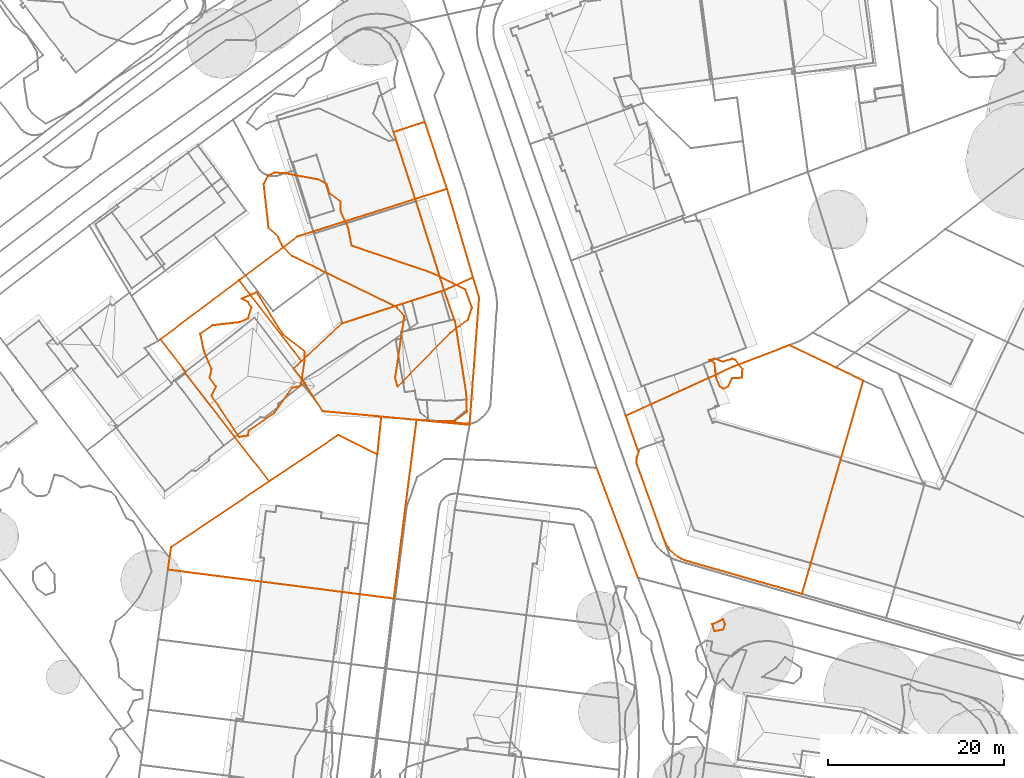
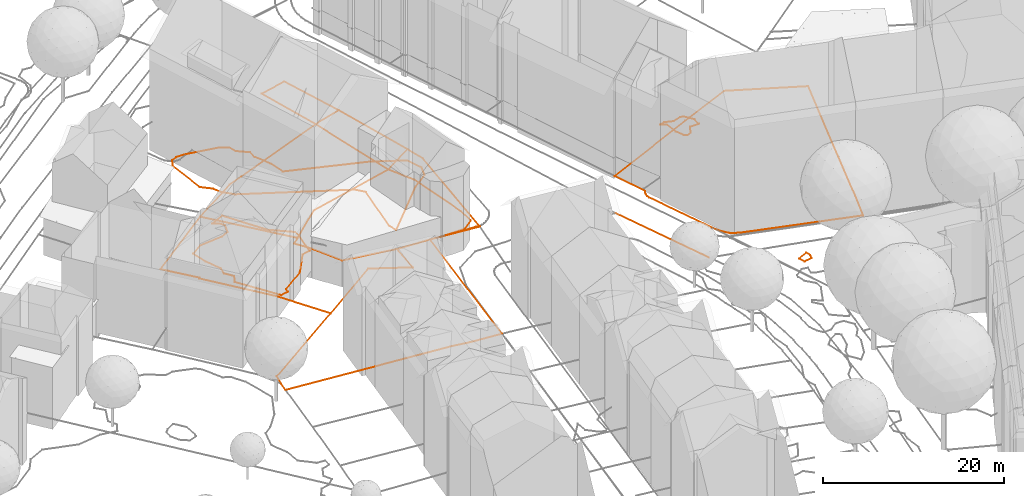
# Not in any storey, part 129 of 494: 11 proxies.
"""IFC2X3 model written with IfcOpenShell, lengths in metres."""

from ifc_helpers import new_model, entity, si_unit, frame, origin_with_axes, place, context, subcontext, project, element, save


model = new_model("IFC2X3")

# Units and contexts
model_context = context("Model", 3, precision=1e-05, world=origin_with_axes())
body_context = subcontext(model_context, "Body", "Model", "MODEL_VIEW")
ifc_project = project(units=[si_unit("AREAUNIT", "SQUARE_METRE"), si_unit("LENGTHUNIT", "METRE")], contexts=[model_context])

# Proxies
proxy_1_placement = place(None, frame((481.301732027, 114.9217396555, 501.949), z_axis=(0.0, 0.0, 1.0), x_axis=(1.0, 0.0, 0.0)))
element("IfcBuildingElementProxy", 1, at=proxy_1_placement, Name="Road 165", ObjectType="NOTDEFINED", context=body_context, shape_type="GeometricCurveSet", body=[
    entity("IfcGeometricCurveSet", [entity("IfcPolyline", [entity("IfcCartesianPoint", [4.6989999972, -12.4819996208, -0.065]), entity("IfcCartesianPoint", [0.0, 0.0, 0.0])])]),
])
proxy_2_placement = place(None, frame((458.2217320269, 153.0947160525, 502.9769572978), z_axis=(0.0, 0.0, 1.0), x_axis=(1.0, 0.0, 0.0)))
element("IfcBuildingElementProxy", 2, at=proxy_2_placement, Name="Roads Outline 79", ObjectType="NOTDEFINED", context=body_context, shape_type="GeometricCurveSet", body=[
    entity("IfcGeometricCurveSet", [entity("IfcPolyline", [entity("IfcCartesianPoint", [0.0, 0.0, 0.0]), entity("IfcCartesianPoint", [3.5499999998, 1.173, -0.3031766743]), entity("IfcCartesianPoint", [6.0699999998, -6.4540000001, -0.4345968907]), entity("IfcCartesianPoint", [9.04, -16.524, -0.6327243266]), entity("IfcCartesianPoint", [9.7199999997, -18.814, -0.7183331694]), entity("IfcCartesianPoint", [8.642, -33.1340000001, -0.7359269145]), entity("IfcCartesianPoint", [8.4389999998, -33.1390000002, -0.7298806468]), entity("IfcCartesianPoint", [8.2369999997, -33.125, -0.724778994]), entity("IfcCartesianPoint", [4.4099999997, -32.882, -0.6818248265]), entity("IfcCartesianPoint", [6.9589999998, -32.8190000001, -0.6970912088]), entity("IfcCartesianPoint", [8.3249999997, -31.7710000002, -0.7623104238]), entity("IfcCartesianPoint", [8.2560000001, -29.6770000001, -0.7232116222]), entity("IfcCartesianPoint", [6.9949999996, -21.561, -0.9467390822]), entity("IfcCartesianPoint", [5.736, -17.9740000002, -1.3251804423]), entity("IfcCartesianPoint", [2.4669999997, -7.6020000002, -0.3523463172]), entity("IfcCartesianPoint", [0.0, 0.0, 0.0])])]),
])
proxy_3_placement = place(None, frame((484.6067320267, 120.8577160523, 502.1964301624), z_axis=(0.0, 0.0, 1.0), x_axis=(1.0, 0.0, 0.0)))
element("IfcBuildingElementProxy", 3, at=proxy_3_placement, Name="Cadastre 187", ObjectType="NOTDEFINED", context=body_context, shape_type="GeometricCurveSet", body=[
    entity("IfcGeometricCurveSet", [entity("IfcPolyline", [entity("IfcCartesianPoint", [0.0, 0.0, 0.0]), entity("IfcCartesianPoint", [12.2119999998, 5.5830000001, -0.2035216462]), entity("IfcCartesianPoint", [18.571, 8.023, 0.1133607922]), entity("IfcCartesianPoint", [26.9810000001, 3.9840000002, 0.2483261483]), entity("IfcCartesianPoint", [24.4550000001, -4.791, 0.1320991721]), entity("IfcCartesianPoint", [21.0150000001, -16.74, 0.1327480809]), entity("IfcCartesianPoint", [20.0019999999, -20.257, -0.0218796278]), entity("IfcCartesianPoint", [6.6839999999, -16.4269999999, 0.0225967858]), entity("IfcCartesianPoint", [6.2779999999, -16.2429999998, 0.0088151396]), entity("IfcCartesianPoint", [5.8939999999, -16.0189999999, -0.0366368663]), entity("IfcCartesianPoint", [5.534, -15.7559999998, -0.0392585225]), entity("IfcCartesianPoint", [5.2039999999, -15.4569999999, -0.0168555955]), entity("IfcCartesianPoint", [4.8390000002, -14.9909999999, 0.0096932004]), entity("IfcCartesianPoint", [4.537, -14.4809999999, 0.0246534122]), entity("IfcCartesianPoint", [4.304, -13.9369999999, 0.0285816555]), entity("IfcCartesianPoint", [1.2420000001, -5.4279999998, -0.0167491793]), entity("IfcCartesianPoint", [1.2119999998, -5.1039999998, -0.0157519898]), entity("IfcCartesianPoint", [1.2409999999, -4.7799999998, -0.0084942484]), entity("IfcCartesianPoint", [1.3280000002, -4.4669999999, 0.0030347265]), entity("IfcCartesianPoint", [1.469, -4.1739999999, 0.0183565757]), entity("IfcCartesianPoint", [0.0, 0.0, 0.0])])]),
])
proxy_4_placement = place(None, frame((431.7267320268, 129.5497160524, 502.8882480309), z_axis=(0.0, 0.0, 1.0), x_axis=(1.0, 0.0, 0.0)))
element("IfcBuildingElementProxy", 4, at=proxy_4_placement, Name="Cadastre 191", ObjectType="NOTDEFINED", context=body_context, shape_type="GeometricCurveSet", body=[
    entity("IfcGeometricCurveSet", [entity("IfcPolyline", [entity("IfcCartesianPoint", [0.0, 0.0, 0.0]), entity("IfcCartesianPoint", [8.9380000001, 6.7110000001, -0.1349980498]), entity("IfcCartesianPoint", [16.048, -2.459, 0.073214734]), entity("IfcCartesianPoint", [15.1379999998, -3.3199999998, 0.1530760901]), entity("IfcCartesianPoint", [16.4180000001, -4.98, 0.0367214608]), entity("IfcCartesianPoint", [16.398, -4.99, 0.0383704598]), entity("IfcCartesianPoint", [18.4380000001, -8.1699999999, -0.3272650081]), entity("IfcCartesianPoint", [25.0970000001, -8.7889999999, -0.7380797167]), entity("IfcCartesianPoint", [24.6469999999, -13.1199999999, -0.4303832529]), entity("IfcCartesianPoint", [20.2080000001, -10.8699999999, -0.408103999]), entity("IfcCartesianPoint", [12.3689999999, -16.1299999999, -0.5003835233]), entity("IfcCartesianPoint", [8.4189999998, -11.05, 0.1041798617]), entity("IfcCartesianPoint", [2.7599999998, -3.76, 0.0622841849]), entity("IfcCartesianPoint", [2.8700000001, -3.6699999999, 0.0658407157]), entity("IfcCartesianPoint", [0.0, 0.0, 0.0])])]),
])
proxy_5_placement = place(None, frame((432.5757320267, 103.3697160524, 502.2004474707), z_axis=(0.0, 0.0, 1.0), x_axis=(1.0, 0.0, 0.0)))
element("IfcBuildingElementProxy", 5, at=proxy_5_placement, Name="Cadastre 194", ObjectType="NOTDEFINED", context=body_context, shape_type="GeometricCurveSet", body=[
    entity("IfcGeometricCurveSet", [entity("IfcPolyline", [entity("IfcCartesianPoint", [0.0, 0.0, 0.0]), entity("IfcCartesianPoint", [0.1899999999, 1.3500000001, -0.0477612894]), entity("IfcCartesianPoint", [0.3599999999, 2.5700000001, 0.1443315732]), entity("IfcCartesianPoint", [11.52, 10.05, 0.1874170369]), entity("IfcCartesianPoint", [19.3590000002, 15.3100000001, 0.2796965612]), entity("IfcCartesianPoint", [23.798, 13.0600000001, 0.2574173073]), entity("IfcCartesianPoint", [24.2480000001, 17.3910000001, -0.0502791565]), entity("IfcCartesianPoint", [28.2480000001, 17.0109999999, 0.0617653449]), entity("IfcCartesianPoint", [25.6680000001, -3.29, 0.5828856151]), entity("IfcCartesianPoint", [21.898, -2.807, 0.4582061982]), entity("IfcCartesianPoint", [19.7560000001, -2.5319999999, 0.5275655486]), entity("IfcCartesianPoint", [10.648, -1.365, 0.2758136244]), entity("IfcCartesianPoint", [0.0, 0.0, 0.0])])]),
])
proxy_6_placement = place(None, frame((440.6647320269, 136.2607160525, 502.7532499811), z_axis=(0.0, 0.0, 1.0), x_axis=(1.0, 0.0, 0.0)))
element("IfcBuildingElementProxy", 6, at=proxy_6_placement, Name="Cadastre 195", ObjectType="NOTDEFINED", context=body_context, shape_type="GeometricCurveSet", body=[
    entity("IfcGeometricCurveSet", [entity("IfcPolyline", [entity("IfcCartesianPoint", [0.0, 0.0, 0.0]), entity("IfcCartesianPoint", [6.6189999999, 4.96, -0.9639359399]), entity("IfcCartesianPoint", [8.4929999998, 5.557, -0.8849315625]), entity("IfcCartesianPoint", [20.0239999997, 9.2319999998, -0.1286390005]), entity("IfcCartesianPoint", [23.6269999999, 10.3799999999, -0.210889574]), entity("IfcCartesianPoint", [26.5970000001, 0.3100000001, -0.4090170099]), entity("IfcCartesianPoint", [23.2930000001, -1.1400000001, -1.1014731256]), entity("IfcCartesianPoint", [11.6289999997, -4.9300000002, -0.230844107]), entity("IfcCartesianPoint", [7.1099999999, -9.1700000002, 0.2082127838]), entity("IfcCartesianPoint", [0.0, 0.0, 0.0])])]),
])
proxy_7_placement = place(None, frame((446.8647320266, 126.2297160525, 503.0413241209), z_axis=(0.0, 0.0, 1.0), x_axis=(1.0, 0.0, 0.0)))
element("IfcBuildingElementProxy", 7, at=proxy_7_placement, Name="Cadastre 199", ObjectType="NOTDEFINED", context=body_context, shape_type="GeometricCurveSet", body=[
    entity("IfcGeometricCurveSet", [entity("IfcPolyline", [entity("IfcCartesianPoint", [0.0, 0.0, 0.0]), entity("IfcCartesianPoint", [0.9100000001, 0.8609999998, -0.0798613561]), entity("IfcCartesianPoint", [5.429, 5.1009999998, -0.5189182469]), entity("IfcCartesianPoint", [17.0930000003, 8.8909999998, -1.3895472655]), entity("IfcCartesianPoint", [20.3970000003, 10.341, -0.6970911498]), entity("IfcCartesianPoint", [21.077, 8.051, -0.7826999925]), entity("IfcCartesianPoint", [19.9880000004, -6.409, -0.7934016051]), entity("IfcCartesianPoint", [13.9590000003, -5.8490000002, -0.7791113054]), entity("IfcCartesianPoint", [9.9590000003, -5.469, -0.8911558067]), entity("IfcCartesianPoint", [3.3000000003, -4.8500000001, -0.4803410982]), entity("IfcCartesianPoint", [1.2600000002, -1.6700000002, -0.1147056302]), entity("IfcCartesianPoint", [1.2800000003, -1.6600000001, -0.1163546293]), entity("IfcCartesianPoint", [0.0, 0.0, 0.0])])]),
])
proxy_8_placement = place(None, frame((443.4644125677, 147.1707160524, 502.0), z_axis=(0.0, 0.0, 1.0), x_axis=(1.0, 0.0, 0.0)))
element("IfcBuildingElementProxy", 8, at=proxy_8_placement, Name="Contour Line 502.0 m", ObjectType="NOTDEFINED", context=body_context, shape_type="GeometricCurveSet", body=[
    entity("IfcGeometricCurveSet", [entity("IfcPolyline", [entity("IfcCartesianPoint", [15.213319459, -22.9930795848, 0.0]), entity("IfcCartesianPoint", [21.213319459, -16.868545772, 0.0]), entity("IfcCartesianPoint", [23.213319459, -15.3809935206, 0.0]), entity("IfcCartesianPoint", [23.6659379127, -14.0, 0.0]), entity("IfcCartesianPoint", [22.9249736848, -12.0, 0.0]), entity("IfcCartesianPoint", [19.213319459, -10.1315477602, 0.0]), entity("IfcCartesianPoint", [9.9977631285, -7.0, 0.0]), entity("IfcCartesianPoint", [9.6027931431, -5.0, 0.0]), entity("IfcCartesianPoint", [8.719178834, -3.0, 0.0]), entity("IfcCartesianPoint", [8.7273698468, -2.0, 0.0]), entity("IfcCartesianPoint", [7.4553943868, -1.0, 0.0]), entity("IfcCartesianPoint", [7.1687159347, 0.0, 0.0]), entity("IfcCartesianPoint", [6.213319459, 0.5267152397, 0.0]), entity("IfcCartesianPoint", [2.213319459, 1.2722673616, 0.0]), entity("IfcCartesianPoint", [1.213319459, 1.3031500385, 0.0]), entity("IfcCartesianPoint", [0.5176015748, 1.0, 0.0]), entity("IfcCartesianPoint", [0.0, 0.0, 0.0]), entity("IfcCartesianPoint", [0.5554783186, -5.0, 0.0]), entity("IfcCartesianPoint", [1.6567620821, -6.0, 0.0]), entity("IfcCartesianPoint", [2.1078089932, -7.0, 0.0]), entity("IfcCartesianPoint", [3.213319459, -8.1677553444, 0.0]), entity("IfcCartesianPoint", [15.1344359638, -14.0, 0.0]), entity("IfcCartesianPoint", [15.9743335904, -15.0, 0.0]), entity("IfcCartesianPoint", [14.9335923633, -22.0, 0.0]), entity("IfcCartesianPoint", [15.213319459, -22.9930795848, 0.0])])]),
])
proxy_9_placement = place(None, frame((494.0767468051, 127.1707160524, 502.0), z_axis=(0.0, 0.0, 1.0), x_axis=(1.0, 0.0, 0.0)))
element("IfcBuildingElementProxy", 9, at=proxy_9_placement, Name="Contour Line 502.0 m", ObjectType="NOTDEFINED", context=body_context, shape_type="GeometricCurveSet", body=[
    entity("IfcGeometricCurveSet", [entity("IfcPolyline", [entity("IfcCartesianPoint", [1.6009852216, -3.2536204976, 0.0]), entity("IfcCartesianPoint", [2.1513478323, -3.0, 0.0]), entity("IfcCartesianPoint", [2.6009852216, -2.0176056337, 0.0]), entity("IfcCartesianPoint", [3.759567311, -2.0, 0.0]), entity("IfcCartesianPoint", [3.7726508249, -1.0, 0.0]), entity("IfcCartesianPoint", [3.0293943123, 0.0, 0.0]), entity("IfcCartesianPoint", [2.6009852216, 0.1726190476, 0.0]), entity("IfcCartesianPoint", [1.6009852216, -0.166994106, 0.0]), entity("IfcCartesianPoint", [0.6009852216, 0.1633199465, 0.0]), entity("IfcCartesianPoint", [0.0, 0.0, 0.0]), entity("IfcCartesianPoint", [0.6009852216, -0.3407821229, 0.0]), entity("IfcCartesianPoint", [0.778751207, -2.0, 0.0]), entity("IfcCartesianPoint", [1.2187804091, -3.0, 0.0]), entity("IfcCartesianPoint", [1.6009852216, -3.2536204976, 0.0])])]),
])
proxy_10_placement = place(None, frame((436.2626509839, 130.1707160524, 503.0), z_axis=(0.0, 0.0, 1.0), x_axis=(1.0, 0.0, 0.0)))
element("IfcBuildingElementProxy", 10, at=proxy_10_placement, Name="Contour Line 503.0 m", ObjectType="NOTDEFINED", context=body_context, shape_type="GeometricCurveSet", body=[
    entity("IfcGeometricCurveSet", [entity("IfcPolyline", [entity("IfcCartesianPoint", [5.4830452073, -11.0, 0.0]), entity("IfcCartesianPoint", [5.4150810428, -11.5472636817, 0.0]), entity("IfcCartesianPoint", [4.4150810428, -11.728285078, 0.0]), entity("IfcCartesianPoint", [1.2564907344, -7.0, 0.0]), entity("IfcCartesianPoint", [1.7705679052, -6.0, 0.0]), entity("IfcCartesianPoint", [1.0477806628, -5.0, 0.0]), entity("IfcCartesianPoint", [1.2677537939, -4.0, 0.0]), entity("IfcCartesianPoint", [0.4150810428, -1.9782608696, 0.0]), entity("IfcCartesianPoint", [0.0, 0.0, 0.0]), entity("IfcCartesianPoint", [1.4150810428, 0.9798711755, 0.0]), entity("IfcCartesianPoint", [4.4150810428, 1.3079381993, 0.0]), entity("IfcCartesianPoint", [5.4150810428, 1.7489481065, 0.0]), entity("IfcCartesianPoint", [5.8054682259, 3.0, 0.0]), entity("IfcCartesianPoint", [5.4150810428, 3.6006573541, 0.0]), entity("IfcCartesianPoint", [4.7107332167, 4.0, 0.0]), entity("IfcCartesianPoint", [6.4150810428, 4.736797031, 0.0]), entity("IfcCartesianPoint", [9.4150810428, -0.1146632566, 0.0]), entity("IfcCartesianPoint", [11.8269209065, -2.0, 0.0]), entity("IfcCartesianPoint", [11.8445807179, -3.0, 0.0]), entity("IfcCartesianPoint", [11.4150810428, -5.9071294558, 0.0]), entity("IfcCartesianPoint", [10.4150810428, -6.1424755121, 0.0]), entity("IfcCartesianPoint", [8.3938470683, -9.0, 0.0]), entity("IfcCartesianPoint", [5.4830452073, -11.0, 0.0])])]),
])
proxy_11_placement = place(None, frame((494.4228807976, 97.1707160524, 502.0), z_axis=(0.0, 0.0, 1.0), x_axis=(1.0, 0.0, 0.0)))
element("IfcBuildingElementProxy", 11, at=proxy_11_placement, Name="Contour Line 502.0 m", ObjectType="NOTDEFINED", context=body_context, shape_type="GeometricCurveSet", body=[
    entity("IfcGeometricCurveSet", [entity("IfcPolyline", [entity("IfcCartesianPoint", [1.254851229, -0.5976520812, 0.0]), entity("IfcCartesianPoint", [1.4447461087, 0.0, 0.0]), entity("IfcCartesianPoint", [1.254851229, 0.5656565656, 0.0]), entity("IfcCartesianPoint", [0.0, 0.0, 0.0]), entity("IfcCartesianPoint", [0.254851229, -0.7809712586, 0.0]), entity("IfcCartesianPoint", [1.254851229, -0.5976520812, 0.0])])]),
])

save(model, "model.ifc")
